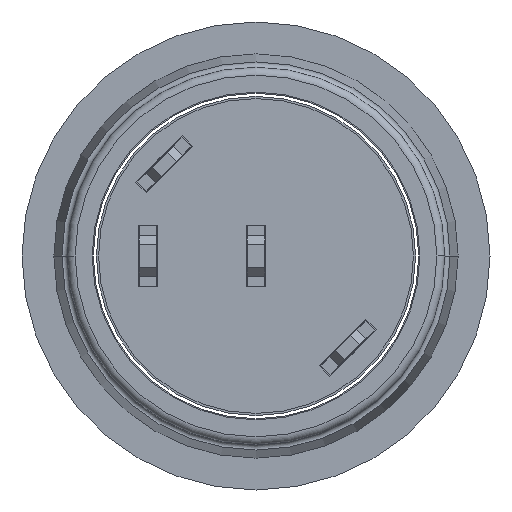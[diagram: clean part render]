
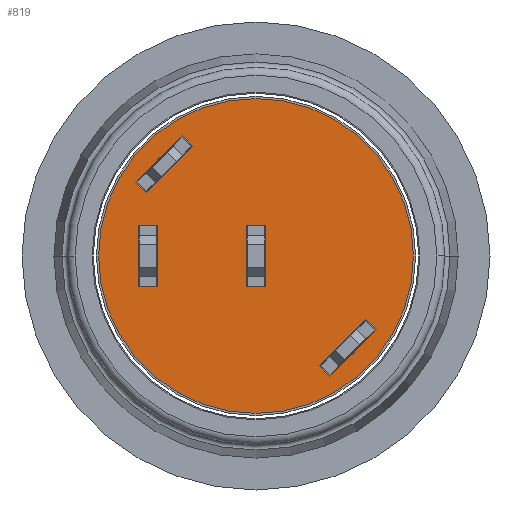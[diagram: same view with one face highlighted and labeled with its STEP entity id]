
A CAD part, front view. The second image highlights one B-rep face of the part: STEP entity #819.
In plain terms, the highlighted planar face has unit normal (0, -1, 0).
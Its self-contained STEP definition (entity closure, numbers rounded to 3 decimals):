
#626=CARTESIAN_POINT('',(0.,-15.96,0.));
#627=DIRECTION('',(0.,-1.,0.));
#628=DIRECTION('',(-1.,0.,0.));
#629=AXIS2_PLACEMENT_3D('',#626,#627,#628);
#631=CARTESIAN_POINT('',(0.,-15.96,0.));
#632=DIRECTION('',(0.,1.,0.));
#633=DIRECTION('',(-1.,0.,0.));
#634=AXIS2_PLACEMENT_3D('',#631,#632,#633);
#636=DIRECTION('',(-0.707,0.,0.707));
#637=VECTOR('',#636,0.7);
#638=CARTESIAN_POINT('',(5.657,-15.96,-3.465));
#639=LINE('',#638,#637);
#640=DIRECTION('',(-0.707,0.,-0.707));
#641=VECTOR('',#640,3.1);
#642=CARTESIAN_POINT('',(5.162,-15.96,-2.97));
#643=LINE('',#642,#641);
#644=DIRECTION('',(0.707,0.,-0.707));
#645=VECTOR('',#644,0.7);
#646=CARTESIAN_POINT('',(2.97,-15.96,-5.162));
#647=LINE('',#646,#645);
#648=DIRECTION('',(0.707,0.,0.707));
#649=VECTOR('',#648,3.1);
#650=CARTESIAN_POINT('',(3.465,-15.96,-5.657));
#651=LINE('',#650,#649);
#652=DIRECTION('',(-0.707,0.,0.707));
#653=VECTOR('',#652,0.7);
#654=CARTESIAN_POINT('',(-2.97,-15.96,5.162));
#655=LINE('',#654,#653);
#656=DIRECTION('',(-0.707,0.,-0.707));
#657=VECTOR('',#656,3.1);
#658=CARTESIAN_POINT('',(-3.465,-15.96,5.657));
#659=LINE('',#658,#657);
#660=DIRECTION('',(0.707,0.,-0.707));
#661=VECTOR('',#660,0.7);
#662=CARTESIAN_POINT('',(-5.657,-15.96,3.465));
#663=LINE('',#662,#661);
#664=DIRECTION('',(0.707,0.,0.707));
#665=VECTOR('',#664,3.1);
#666=CARTESIAN_POINT('',(-5.162,-15.96,2.97));
#667=LINE('',#666,#665);
#668=DIRECTION('',(0.,0.,1.));
#669=VECTOR('',#668,2.9);
#670=CARTESIAN_POINT('',(0.45,-15.96,-1.45));
#671=LINE('',#670,#669);
#672=DIRECTION('',(-1.,0.,0.));
#673=VECTOR('',#672,0.9);
#674=CARTESIAN_POINT('',(0.45,-15.96,1.45));
#675=LINE('',#674,#673);
#676=DIRECTION('',(0.,0.,-1.));
#677=VECTOR('',#676,2.9);
#678=CARTESIAN_POINT('',(-0.45,-15.96,1.45));
#679=LINE('',#678,#677);
#680=DIRECTION('',(1.,0.,0.));
#681=VECTOR('',#680,0.9);
#682=CARTESIAN_POINT('',(-0.45,-15.96,-1.45));
#683=LINE('',#682,#681);
#684=DIRECTION('',(0.,0.,1.));
#685=VECTOR('',#684,2.9);
#686=CARTESIAN_POINT('',(-4.63,-15.96,-1.45));
#687=LINE('',#686,#685);
#688=DIRECTION('',(-1.,0.,0.));
#689=VECTOR('',#688,0.9);
#690=CARTESIAN_POINT('',(-4.63,-15.96,1.45));
#691=LINE('',#690,#689);
#692=DIRECTION('',(0.,0.,-1.));
#693=VECTOR('',#692,2.9);
#694=CARTESIAN_POINT('',(-5.53,-15.96,1.45));
#695=LINE('',#694,#693);
#696=DIRECTION('',(1.,0.,0.));
#697=VECTOR('',#696,0.9);
#698=CARTESIAN_POINT('',(-5.53,-15.96,-1.45));
#699=LINE('',#698,#697);
#701=CARTESIAN_POINT('',(-7.4,-15.96,0.));
#703=VERTEX_POINT('',#701);
#705=CARTESIAN_POINT('',(7.4,-15.96,0.));
#707=VERTEX_POINT('',#705);
#708=CARTESIAN_POINT('',(5.162,-15.96,-2.97));
#709=CARTESIAN_POINT('',(5.657,-15.96,-3.465));
#710=VERTEX_POINT('',#708);
#711=VERTEX_POINT('',#709);
#712=CARTESIAN_POINT('',(2.97,-15.96,-5.162));
#713=CARTESIAN_POINT('',(3.465,-15.96,-5.657));
#714=VERTEX_POINT('',#712);
#715=VERTEX_POINT('',#713);
#716=CARTESIAN_POINT('',(-2.97,-15.96,5.162));
#717=CARTESIAN_POINT('',(-3.465,-15.96,5.657));
#718=VERTEX_POINT('',#716);
#719=VERTEX_POINT('',#717);
#720=CARTESIAN_POINT('',(-5.162,-15.96,2.97));
#721=CARTESIAN_POINT('',(-5.657,-15.96,3.465));
#722=VERTEX_POINT('',#720);
#723=VERTEX_POINT('',#721);
#724=CARTESIAN_POINT('',(0.45,-15.96,1.45));
#725=CARTESIAN_POINT('',(0.45,-15.96,-1.45));
#726=VERTEX_POINT('',#724);
#727=VERTEX_POINT('',#725);
#728=CARTESIAN_POINT('',(-0.45,-15.96,-1.45));
#729=VERTEX_POINT('',#728);
#730=CARTESIAN_POINT('',(-0.45,-15.96,1.45));
#731=VERTEX_POINT('',#730);
#732=CARTESIAN_POINT('',(-4.63,-15.96,1.45));
#733=CARTESIAN_POINT('',(-4.63,-15.96,-1.45));
#734=VERTEX_POINT('',#732);
#735=VERTEX_POINT('',#733);
#736=CARTESIAN_POINT('',(-5.53,-15.96,-1.45));
#737=VERTEX_POINT('',#736);
#738=CARTESIAN_POINT('',(-5.53,-15.96,1.45));
#739=VERTEX_POINT('',#738);
#770=CARTESIAN_POINT('',(0.,-15.96,0.));
#771=DIRECTION('',(0.,1.,0.));
#772=DIRECTION('',(1.,0.,0.));
#773=AXIS2_PLACEMENT_3D('',#770,#771,#772);
#774=PLANE('',#773);
#775=ORIENTED_EDGE('',*,*,#762,.F.);
#776=ORIENTED_EDGE('',*,*,#751,.T.);
#777=EDGE_LOOP('',(#775,#776));
#778=FACE_OUTER_BOUND('',#777,.F.);
#780=ORIENTED_EDGE('',*,*,#779,.T.);
#782=ORIENTED_EDGE('',*,*,#781,.T.);
#784=ORIENTED_EDGE('',*,*,#783,.T.);
#786=ORIENTED_EDGE('',*,*,#785,.T.);
#787=EDGE_LOOP('',(#780,#782,#784,#786));
#788=FACE_BOUND('',#787,.F.);
#790=ORIENTED_EDGE('',*,*,#789,.T.);
#792=ORIENTED_EDGE('',*,*,#791,.T.);
#794=ORIENTED_EDGE('',*,*,#793,.T.);
#796=ORIENTED_EDGE('',*,*,#795,.T.);
#797=EDGE_LOOP('',(#790,#792,#794,#796));
#798=FACE_BOUND('',#797,.F.);
#800=ORIENTED_EDGE('',*,*,#799,.T.);
#802=ORIENTED_EDGE('',*,*,#801,.T.);
#804=ORIENTED_EDGE('',*,*,#803,.T.);
#806=ORIENTED_EDGE('',*,*,#805,.T.);
#807=EDGE_LOOP('',(#800,#802,#804,#806));
#808=FACE_BOUND('',#807,.F.);
#810=ORIENTED_EDGE('',*,*,#809,.T.);
#812=ORIENTED_EDGE('',*,*,#811,.T.);
#814=ORIENTED_EDGE('',*,*,#813,.T.);
#816=ORIENTED_EDGE('',*,*,#815,.T.);
#817=EDGE_LOOP('',(#810,#812,#814,#816));
#818=FACE_BOUND('',#817,.F.);
#819=ADVANCED_FACE('',(#778,#788,#798,#808,#818),#774,.F.);
#630=CIRCLE('',#629,7.4);
#635=CIRCLE('',#634,7.4);
#751=EDGE_CURVE('',#703,#707,#635,.T.);
#762=EDGE_CURVE('',#703,#707,#630,.T.);
#779=EDGE_CURVE('',#711,#710,#639,.T.);
#781=EDGE_CURVE('',#710,#714,#643,.T.);
#783=EDGE_CURVE('',#714,#715,#647,.T.);
#785=EDGE_CURVE('',#715,#711,#651,.T.);
#789=EDGE_CURVE('',#718,#719,#655,.T.);
#791=EDGE_CURVE('',#719,#723,#659,.T.);
#793=EDGE_CURVE('',#723,#722,#663,.T.);
#795=EDGE_CURVE('',#722,#718,#667,.T.);
#799=EDGE_CURVE('',#727,#726,#671,.T.);
#801=EDGE_CURVE('',#726,#731,#675,.T.);
#803=EDGE_CURVE('',#731,#729,#679,.T.);
#805=EDGE_CURVE('',#729,#727,#683,.T.);
#809=EDGE_CURVE('',#735,#734,#687,.T.);
#811=EDGE_CURVE('',#734,#739,#691,.T.);
#813=EDGE_CURVE('',#739,#737,#695,.T.);
#815=EDGE_CURVE('',#737,#735,#699,.T.);
